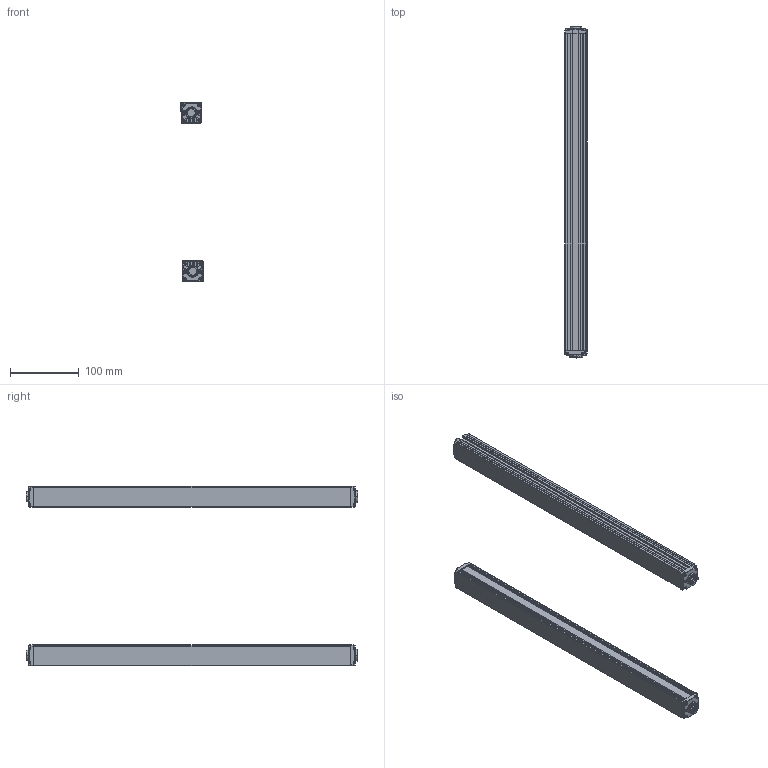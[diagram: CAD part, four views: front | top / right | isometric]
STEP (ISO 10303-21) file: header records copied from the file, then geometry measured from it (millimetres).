
FILE_DESCRIPTION (( 'STEP AP203' ), '1' );
FILE_NAME ('ZDA4410-460.STEP', '2022-08-30T03:48:54', ( 'Windows 蚚誧' ), ( 'Organization' ), 'SwSTEP 2.0', 'SolidWorks 2020', '' );
FILE_SCHEMA (( 'CONFIG_CONTROL_DESIGN' ));
Length unit declared in the file: millimetre
Products named in the file (5): 錨璃10; ZDA4410-460; 錨璃1; 錨璃8; 錨璃8 - 萵掛 (2)
Assembly tree (8 placements, depth 2):
  ZDA4410-460
    錨璃1  x2
    錨璃8  x2
    錨璃8 - 萵掛 (2)  x2
    錨璃10  x2
Bounding box: 32.36 x 481.4 x 260.35 mm (x, y, z)
Volume: 298277 mm3; surface area: 317306.4 mm2
Topology: 8 solids, 8 shells, 1032 faces, 2690 edges, 1668 vertices
Faces by surface type: plane 464, cylinder 310, cone 120, bspline 58, torus 48, sphere 32
Entity records: 17901 total; most frequent: CARTESIAN_POINT 4731, ORIENTED_EDGE 2666, DIRECTION 2616, EDGE_CURVE 1333, AXIS2_PLACEMENT_3D 894, VERTEX_POINT 834, LINE 828, VECTOR 828
